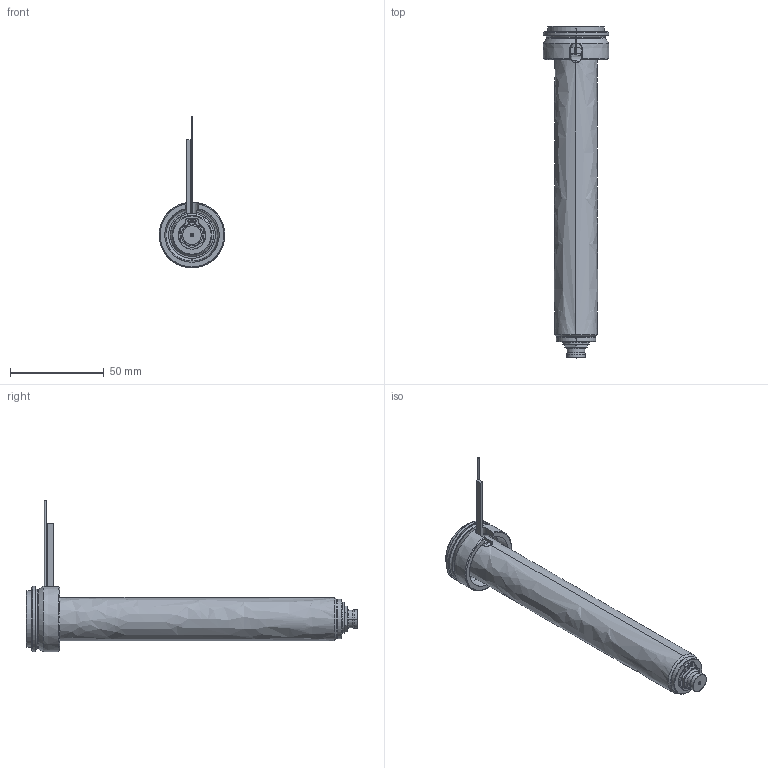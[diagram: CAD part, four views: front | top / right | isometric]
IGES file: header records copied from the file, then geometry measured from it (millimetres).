
Start section: SolidWorks IGES file using analytic representation for surfaces
Global section: file name: C:\Documents and Settings\ws-20\Desktop\TEM\UGEP3154-M-A-1 [Øf-0.70 P-0 ØC-6.0].IGS; native system: SolidWorks 2012; preprocessor: SolidWorks 2012; author: ws-20; date: 120404.081037; units: millimetre
Bounding box: 35 x 177 x 80.9 mm (x, y, z)
Surface area: 24989.7 mm2 (no closed solid volume)
Topology: 0 solids, 0 shells, 122 faces, 1632 edges, 1632 vertices
Faces by surface type: revolution 75, bspline 47
